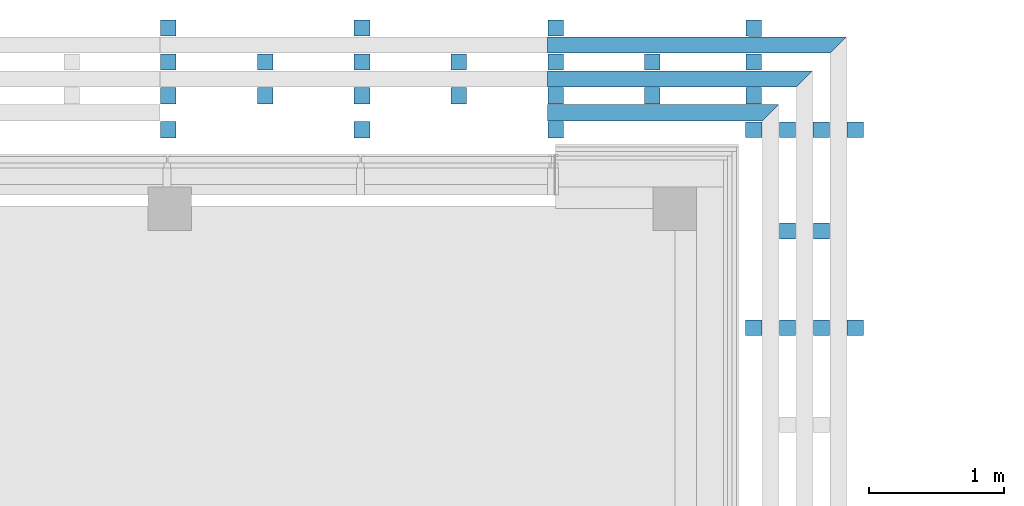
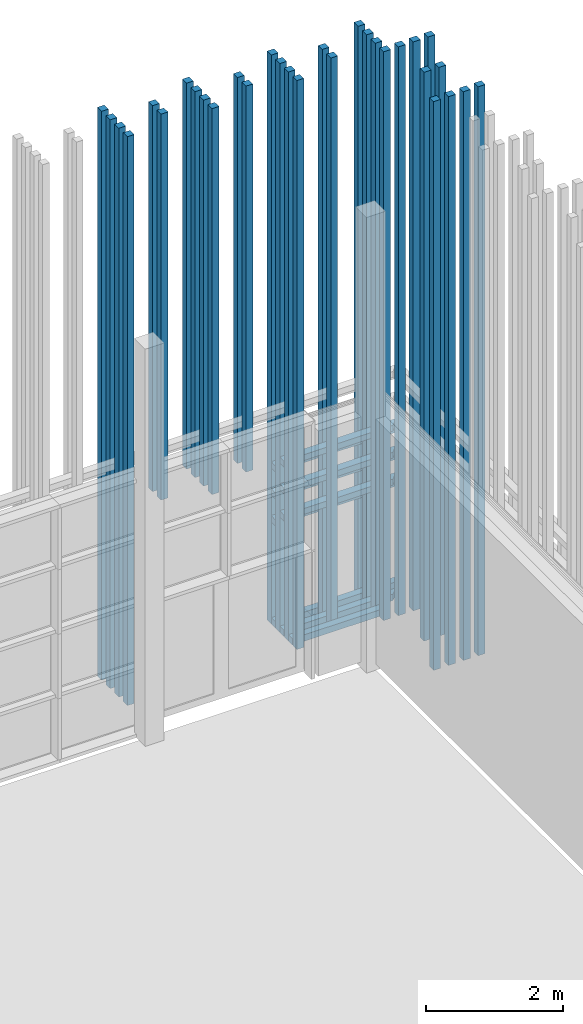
# One storey, part 234 of 260: 14 discrete accessories.
"""IFC2X3 building model written with IfcOpenShell, lengths in millimetres."""

import ifcopenshell
import ifcopenshell.guid

model = None  # the IFC model being written
_history = None  # IfcOwnerHistory: only IFC2X3 demands one
_inside = {}  # id of a spatial element -> (the spatial element, [elements in it])
_under = {}  # id of a project, library or spatial element -> (it, [spatial elements below it])
_declared = {}  # id of a project -> (the project, [libraries it declares])
_typed = {}  # id of a type object -> (the type object, [elements of that type])
_made_of = {}  # id of a material, layer set ... -> (it, [elements and type objects made of it])


def new_model(schema):
    """Start an empty IFC model of exactly this schema.

    Asked for "IFC4X3", IfcOpenShell would pick the latest addendum, in which some entities
    have other attributes; the version numbers below select the first issue.
    IFC2X3 requires an IfcOwnerHistory on every rooted entity: one is made here for all.
    """
    global model, _history
    if schema == "IFC4X3":
        model = ifcopenshell.file(schema_version=(4, 3, 0, 0))
    else:
        model = ifcopenshell.file(schema=schema)
    _inside.clear()
    _under.clear()
    _declared.clear()
    _typed.clear()
    _made_of.clear()
    _history = None
    if model.schema == "IFC2X3":
        org = make("IfcOrganization", Name="unknown")
        user = make(
            "IfcPersonAndOrganization",
            ThePerson=make("IfcPerson", FamilyName="unknown"),
            TheOrganization=org,
        )
        app = make(
            "IfcApplication",
            ApplicationDeveloper=org,
            Version="unknown",
            ApplicationFullName="unknown",
            ApplicationIdentifier="unknown",
        )
        _history = make(
            "IfcOwnerHistory",
            OwningUser=user,
            OwningApplication=app,
            ChangeAction="ADDED",
            CreationDate=0,
        )
    return model


def make(cls, **values):
    """One entity of the class cls with the attributes given. An attribute that is None is left unset."""
    return model.create_entity(
        cls, **{name: value for name, value in values.items() if value is not None}
    )


def entity(cls, *values):
    """Any entity or typed value of the class cls, its attributes in the order of the schema. None: left unset."""
    e = model.create_entity(cls)
    for i, value in enumerate(values):
        if value is not None:
            e[i] = value
    return e


def rooted(cls, **values):
    """An entity with a GlobalId (a new one), such as an element, a storey or a relation."""
    return make(cls, GlobalId=ifcopenshell.guid.new(), OwnerHistory=_history, **values)


def si_unit(unit_type, name, prefix=None):
    """IfcSIUnit, for example si_unit("LENGTHUNIT", "METRE", prefix="MILLI")."""
    return make("IfcSIUnit", UnitType=unit_type, Prefix=prefix, Name=name)


def converted_unit(unit_type, name, factor, base, dimensions=None, offset=None):
    """IfcConversionBasedUnit, such as the inch: factor (a typed value) times the base unit."""
    return make(
        "IfcConversionBasedUnit"
        if offset is None
        else "IfcConversionBasedUnitWithOffset",
        ConversionOffset=offset,
        Dimensions=None
        if dimensions is None
        else entity("IfcDimensionalExponents", *dimensions),
        UnitType=unit_type,
        Name=name,
        ConversionFactor=make(
            "IfcMeasureWithUnit", ValueComponent=factor, UnitComponent=base
        ),
    )


def derived_unit(unit_type, elements):
    """IfcDerivedUnit: a product of units, each with its exponent."""
    return make(
        "IfcDerivedUnit",
        Elements=[
            make("IfcDerivedUnitElement", Unit=unit, Exponent=power)
            for unit, power in elements
        ],
        UnitType=unit_type,
    )


def money_unit(currency):
    """IfcMonetaryUnit."""
    return make("IfcMonetaryUnit", Currency=currency)


def assignment(units):
    """IfcUnitAssignment: the units of a project."""
    return None if units is None else make("IfcUnitAssignment", Units=units)


def point(xyz):
    """IfcCartesianPoint."""
    return None if xyz is None else make("IfcCartesianPoint", Coordinates=xyz)


def direction(xyz):
    """IfcDirection."""
    return None if xyz is None else make("IfcDirection", DirectionRatios=xyz)


def frame(location, z_axis=None, x_axis=None):
    """IfcAxis2Placement3D, a coordinate frame: its origin and axes. An axis left out is left unset."""
    return make(
        "IfcAxis2Placement3D",
        Location=point(location),
        Axis=direction(z_axis),
        RefDirection=direction(x_axis),
    )


def origin_with_axes():
    """The frame at (0, 0, 0) with the z axis (0, 0, 1) and the x axis (1, 0, 0) written out."""
    return frame((0.0, 0.0, 0.0), z_axis=(0.0, 0.0, 1.0), x_axis=(1.0, 0.0, 0.0))


def place(relative_to, where):
    """IfcLocalPlacement: puts the frame where relative to a parent placement (None: the world)."""
    return make(
        "IfcLocalPlacement", PlacementRelTo=relative_to, RelativePlacement=where
    )


def context(
    kind, dimensions, precision=None, world=None, true_north=None, identifier=None
):
    """IfcGeometricRepresentationContext, for example the 3D "Model" context."""
    return make(
        "IfcGeometricRepresentationContext",
        ContextIdentifier=identifier,
        ContextType=kind,
        CoordinateSpaceDimension=dimensions,
        Precision=precision,
        WorldCoordinateSystem=world,
        TrueNorth=true_north,
    )


def subcontext(parent, identifier, kind, view, scale=None):
    """IfcGeometricRepresentationSubContext, for example "Body" below "Model"."""
    return make(
        "IfcGeometricRepresentationSubContext",
        ContextIdentifier=identifier,
        ContextType=kind,
        ParentContext=parent,
        TargetScale=scale,
        TargetView=view,
    )


def project(units=None, contexts=None):
    """IfcProject with its units and contexts."""
    return rooted(
        "IfcProject",
        Name="project",
        RepresentationContexts=contexts,
        UnitsInContext=assignment(units),
    )


def spatial(cls, under=None, at=None, **own):
    """A site, building, storey or space (cls), placed at a placement, below another one or the project."""
    s = rooted(cls, ObjectPlacement=at, **own)
    if under is not None:
        _under.setdefault(under.id(), (under, []))[1].append(s)
    return s


def faces_of(points, faces, orient=None, outer=None):
    """IfcFace entities. A face is a list of loops; a loop is a list of indices into points, from 0.

    orient and outer hold one flag for each loop. By default every Orientation is true, the
    first loop of a face is its IfcFaceOuterBound and the others are IfcFaceBound.
    """
    made = []
    for i, loops in enumerate(faces):
        bounds = []
        for j, loop in enumerate(loops):
            is_outer = j == 0 if outer is None else outer[i][j]
            bounds.append(
                make(
                    "IfcFaceOuterBound" if is_outer else "IfcFaceBound",
                    Bound=make("IfcPolyLoop", Polygon=[points[k] for k in loop]),
                    Orientation=True if orient is None else orient[i][j],
                )
            )
        made.append(make("IfcFace", Bounds=bounds))
    return made


def faceted_brep(points, faces, orient=None, outer=None, voids=None):
    """IfcFacetedBrep: a solid bounded by flat faces; with voids (closed shells), ...WithVoids."""
    shared = [point(p) for p in points]
    hull = make("IfcClosedShell", CfsFaces=faces_of(shared, faces, orient, outer))
    if voids is None:
        return make("IfcFacetedBrep", Outer=hull)
    return make(
        "IfcFacetedBrepWithVoids",
        Outer=hull,
        Voids=[
            make(cls, CfsFaces=faces_of(shared, fs, o, b)) for cls, fs, o, b in voids
        ],
    )


def shape(context_of_items, identifier, shape_type, items):
    """IfcShapeRepresentation: the items that make up one representation, for example the "Body"."""
    return make(
        "IfcShapeRepresentation",
        ContextOfItems=context_of_items,
        RepresentationIdentifier=identifier,
        RepresentationType=shape_type,
        Items=items,
    )


def material(Name=None, Category=None):
    """IfcMaterial."""
    return make("IfcMaterial", Name=Name, Category=Category)


def material_list(materials):
    """IfcMaterialList."""
    return make("IfcMaterialList", Materials=materials)


def made_of(thing, what):
    """Note that an element or type object is made of a material, layer set ...; save() writes the relation."""
    if what is not None:
        _made_of.setdefault(what.id(), (what, []))[1].append(thing)
    return thing


def type_object(cls, material=None, **own):
    """A type object (cls), such as IfcWallType, which elements share."""
    return made_of(rooted(cls, **own), material)


def element(
    cls,
    number,
    at=None,
    inside=None,
    cuts=None,
    type_object=None,
    material=None,
    context=None,
    identifier="Body",
    shape_type=None,
    held_by="IfcProductDefinitionShape",
    body=None,
    shapes=None,
    **own,
):
    """One element of the class cls, such as IfcWall. Its Tag is "e" and its number.

    at: its placement. inside: the storey or other place that contains it. cuts: it is an
    opening in that element (IfcRelVoidsElement). A single representation is given by context,
    identifier, shape_type and body (its items); several are given by shapes. held_by: the class
    of the entity that holds the representations. save() writes the other relations.
    """
    e = rooted(cls, Tag="e%d" % number, ObjectPlacement=at, **own)
    if body is not None:
        shapes = [shape(context, identifier, shape_type, body)]
    if shapes is not None:
        e.Representation = make(held_by, Representations=shapes)
    if inside is not None:
        _inside.setdefault(inside.id(), (inside, []))[1].append(e)
    if cuts is not None:
        rooted(
            "IfcRelVoidsElement", RelatingBuildingElement=cuts, RelatedOpeningElement=e
        )
    if type_object is not None:
        _typed.setdefault(type_object.id(), (type_object, []))[1].append(e)
    return made_of(e, material)


def aggregate(whole, parts):
    """IfcRelAggregates: a whole, such as a stair, and the parts it consists of."""
    return rooted("IfcRelAggregates", RelatingObject=whole, RelatedObjects=parts)


def save(model, path):
    """Write the relations noted so far, then the file.

    IfcRelAggregates (storeys below a building ...), IfcRelContainedInSpatialStructure (elements
    in a storey), IfcRelDefinesByType, IfcRelAssociatesMaterial and IfcRelDeclares: one each for
    every whole, place, type object, material and project.
    """
    for whole, parts in _under.values():
        aggregate(whole, parts)
    for where, things in _inside.values():
        rooted(
            "IfcRelContainedInSpatialStructure",
            RelatedElements=things,
            RelatingStructure=where,
        )
    for kind, things in _typed.values():
        rooted("IfcRelDefinesByType", RelatedObjects=things, RelatingType=kind)
    for what, things in _made_of.values():
        rooted("IfcRelAssociatesMaterial", RelatedObjects=things, RelatingMaterial=what)
    for by, libraries in _declared.values():
        rooted("IfcRelDeclares", RelatingContext=by, RelatedDefinitions=libraries)
    model.write(path)


model = new_model("IFC2X3")

# Units and contexts
model_context = context("Model", 3, precision=0.01, world=origin_with_axes(), true_north=direction((0.0, 1.0)))
body_context = subcontext(model_context, "Body", "Model", "MODEL_VIEW")
ifc_project = project(units=[si_unit("LENGTHUNIT", "METRE", prefix="MILLI"), si_unit("AREAUNIT", "SQUARE_METRE"), si_unit("VOLUMEUNIT", "CUBIC_METRE"), converted_unit("PLANEANGLEUNIT", "DEGREE", entity("IfcPlaneAngleMeasure", 0.0174532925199), si_unit("PLANEANGLEUNIT", "RADIAN"), dimensions=[0, 0, 0, 0, 0, 0, 0]), money_unit("EUR"), converted_unit("TIMEUNIT", "Year", entity("IfcTimeMeasure", 31556926.0), si_unit("TIMEUNIT", "SECOND"), dimensions=[0, 0, 1, 0, 0, 0, 0]), si_unit("MASSUNIT", "GRAM", prefix="KILO"), si_unit("THERMODYNAMICTEMPERATUREUNIT", "DEGREE_CELSIUS"), si_unit("LUMINOUSINTENSITYUNIT", "LUMEN"), si_unit("ENERGYUNIT", "JOULE", prefix="MEGA"), derived_unit("THERMALCONDUCTANCEUNIT", [(si_unit("POWERUNIT", "WATT"), 1), (si_unit("LENGTHUNIT", "METRE"), -1), (si_unit("THERMODYNAMICTEMPERATUREUNIT", "KELVIN"), -1)]), derived_unit("SPECIFICHEATCAPACITYUNIT", [(si_unit("ENERGYUNIT", "JOULE"), 1), (si_unit("MASSUNIT", "GRAM", prefix="KILO"), -1), (si_unit("THERMODYNAMICTEMPERATUREUNIT", "KELVIN"), -1)]), derived_unit("MASSDENSITYUNIT", [(si_unit("MASSUNIT", "GRAM", prefix="KILO"), 1), (si_unit("VOLUMEUNIT", "CUBIC_METRE"), -1)])], contexts=[model_context])

# Site, building, storey
site_placement = place(None, origin_with_axes())
site = spatial("IfcSite", under=ifc_project, at=site_placement, Name="Kolde pst 67a", CompositionType="ELEMENT")
building_placement = place(site_placement, origin_with_axes())
building = spatial("IfcBuilding", under=site, at=building_placement, Name="Riigigümnaasium", CompositionType="ELEMENT")
storey_placement = place(building_placement, origin_with_axes())
storey = spatial("IfcBuildingStorey", under=building, at=storey_placement, Name="1. korrus", CompositionType="ELEMENT", Elevation=0.0)

# Discrete accessories
ifc_material = material(Name="_VÄLISVIIMISTLUS - sõrmjätkatud puitprussid 120x115mm, liitekohad vähemärgatavad, Platowood sõrmjätkatud kuusk või samaväärne; eeltöödeldud tuletõkkevõõbaga, tuletundlikkus B-s1, d0, Woodsafe Exterior WFX™ või samaväärne; kinnitused vastavalt EK osale")
ifc_material_list_1 = material_list([ifc_material, ifc_material, ifc_material, ifc_material])
discrete_accessory_type_1 = type_object("IfcDiscreteAccessoryType", Name="120 4-ne vertikaalne 870 x 115")
for number, where, z_axis, x_axis in (
    (1, (36789.4137479, 84850.4999211, 280.0), (0.0, 0.0, 1.0), (-0.999999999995, -3.13999128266e-06, 0.0)),
    (2, (36790.0027617, 83387.5215746, 280.0), (0.0, 0.0, 1.0), (-0.999999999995, -3.13999128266e-06, 0.0)),
    (3, (35412.4999347, 84790.0013546, 280.0), (0.0, 0.0, 1.0), (-2.93429595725e-05, -0.999999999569, 0.0)),
):
    element("IfcDiscreteAccessory", number, at=place(storey_placement, frame(where, z_axis=z_axis, x_axis=x_axis)), inside=storey, type_object=discrete_accessory_type_1, material=ifc_material_list_1, Name="Päikesevarjestus", context=body_context, shape_type="Brep", body=[
        faceted_brep([(-133.0, -70.0, 0.0), (-13.0, -70.0, 0.0), (-13.0, -70.0, 10140.0), (-133.0, -70.0, 10140.0), (-133.0, 45.0, 0.0), (-13.0, 45.0, 0.0), (-13.0, 45.0, 10140.0), (-133.0, 45.0, 10140.0)], [[[0, 1, 2, 3]], [[0, 4, 5, 1]], [[1, 5, 6, 2]], [[3, 2, 6, 7]], [[4, 0, 3, 7]], [[5, 4, 7, 6]]]),
        faceted_brep([(-383.0, -70.0, 0.0), (-263.0, -70.0, 0.0), (-263.0, -70.0, 10140.0), (-383.0, -70.0, 10140.0), (-383.0, 45.0, 0.0), (-263.0, 45.0, 0.0), (-263.0, 45.0, 10140.0), (-383.0, 45.0, 10140.0)], [[[0, 1, 2, 3]], [[0, 4, 5, 1]], [[1, 5, 6, 2]], [[3, 2, 6, 7]], [[4, 0, 3, 7]], [[5, 4, 7, 6]]]),
        faceted_brep([(-633.0, -70.0, 0.0), (-513.0, -70.0, 0.0), (-513.0, -70.0, 10140.0), (-633.0, -70.0, 10140.0), (-633.0, 45.0, 0.0), (-513.0, 45.0, 0.0), (-513.0, 45.0, 10140.0), (-633.0, 45.0, 10140.0)], [[[0, 1, 2, 3]], [[0, 4, 5, 1]], [[1, 5, 6, 2]], [[3, 2, 6, 7]], [[4, 0, 3, 7]], [[5, 4, 7, 6]]]),
        faceted_brep([(-883.0, -70.0, 0.0), (-763.0, -70.0, 0.0), (-763.0, -70.0, 10140.0), (-883.0, -70.0, 10140.0), (-883.0, 45.0, 0.0), (-763.0, 45.0, 0.0), (-763.0, 45.0, 10140.0), (-883.0, 45.0, 10140.0)], [[[0, 1, 2, 3]], [[0, 4, 5, 1]], [[1, 5, 6, 2]], [[3, 2, 6, 7]], [[4, 0, 3, 7]], [[5, 4, 7, 6]]]),
    ])
discrete_accessory_1_placement = place(storey_placement, frame((33982.4999347, 84790.0013546, 3540.00014213), z_axis=(0.0, 0.0, 1.0), x_axis=(-2.93429595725e-05, -0.999999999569, 0.0)))
element("IfcDiscreteAccessory", 4, at=discrete_accessory_1_placement, inside=storey, type_object=discrete_accessory_type_1, material=ifc_material_list_1, Name="Päikesevarjestus", context=body_context, shape_type="Brep", body=[
    faceted_brep([(-133.0, -70.0, 0.0), (-13.0, -70.0, 0.0), (-13.0, -70.0, 6879.99985787), (-133.0, -70.0, 6879.99985787), (-133.0, 45.0, 0.0), (-13.0, 45.0, 0.0), (-13.0, 45.0, 6879.99985787), (-133.0, 45.0, 6879.99985787)], [[[0, 1, 2, 3]], [[0, 4, 5, 1]], [[1, 5, 6, 2]], [[3, 2, 6, 7]], [[4, 0, 3, 7]], [[5, 4, 7, 6]]]),
    faceted_brep([(-383.0, -70.0, 0.0), (-263.0, -70.0, 0.0), (-263.0, -70.0, 6879.99985787), (-383.0, -70.0, 6879.99985787), (-383.0, 45.0, 0.0), (-263.0, 45.0, 0.0), (-263.0, 45.0, 6879.99985787), (-383.0, 45.0, 6879.99985787)], [[[0, 1, 2, 3]], [[0, 4, 5, 1]], [[1, 5, 6, 2]], [[3, 2, 6, 7]], [[4, 0, 3, 7]], [[5, 4, 7, 6]]]),
    faceted_brep([(-633.0, -70.0, 0.0), (-513.0, -70.0, 0.0), (-513.0, -70.0, 6879.99985787), (-633.0, -70.0, 6879.99985787), (-633.0, 45.0, 0.0), (-513.0, 45.0, 0.0), (-513.0, 45.0, 6879.99985787), (-633.0, 45.0, 6879.99985787)], [[[0, 1, 2, 3]], [[0, 4, 5, 1]], [[1, 5, 6, 2]], [[3, 2, 6, 7]], [[4, 0, 3, 7]], [[5, 4, 7, 6]]]),
    faceted_brep([(-883.0, -70.0, 0.0), (-763.0, -70.0, 0.0), (-763.0, -70.0, 6879.99985787), (-883.0, -70.0, 6879.99985787), (-883.0, 45.0, 0.0), (-763.0, 45.0, 0.0), (-763.0, 45.0, 6879.99985787), (-883.0, 45.0, 6879.99985787)], [[[0, 1, 2, 3]], [[0, 4, 5, 1]], [[1, 5, 6, 2]], [[3, 2, 6, 7]], [[4, 0, 3, 7]], [[5, 4, 7, 6]]]),
])
discrete_accessory_2_placement = place(storey_placement, frame((32552.4999347, 84790.0013546, 280.0), z_axis=(0.0, 0.0, 1.0), x_axis=(-2.93429595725e-05, -0.999999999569, 0.0)))
element("IfcDiscreteAccessory", 5, at=discrete_accessory_2_placement, inside=storey, type_object=discrete_accessory_type_1, material=ifc_material_list_1, Name="Päikesevarjestus", context=body_context, shape_type="Brep", body=[
    faceted_brep([(-133.0, -70.0, 0.0), (-13.0, -70.0, 0.0), (-13.0, -70.0, 10140.0), (-133.0, -70.0, 10140.0), (-133.0, 45.0, 0.0), (-13.0, 45.0, 0.0), (-13.0, 45.0, 10140.0), (-133.0, 45.0, 10140.0)], [[[0, 1, 2, 3]], [[0, 4, 5, 1]], [[1, 5, 6, 2]], [[3, 2, 6, 7]], [[4, 0, 3, 7]], [[5, 4, 7, 6]]]),
    faceted_brep([(-383.0, -70.0, 0.0), (-263.0, -70.0, 0.0), (-263.0, -70.0, 10140.0), (-383.0, -70.0, 10140.0), (-383.0, 45.0, 0.0), (-263.0, 45.0, 0.0), (-263.0, 45.0, 10140.0), (-383.0, 45.0, 10140.0)], [[[0, 1, 2, 3]], [[0, 4, 5, 1]], [[1, 5, 6, 2]], [[3, 2, 6, 7]], [[4, 0, 3, 7]], [[5, 4, 7, 6]]]),
    faceted_brep([(-633.0, -70.0, 0.0), (-513.0, -70.0, 0.0), (-513.0, -70.0, 10140.0), (-633.0, -70.0, 10140.0), (-633.0, 45.0, 0.0), (-513.0, 45.0, 0.0), (-513.0, 45.0, 10140.0), (-633.0, 45.0, 10140.0)], [[[0, 1, 2, 3]], [[0, 4, 5, 1]], [[1, 5, 6, 2]], [[3, 2, 6, 7]], [[4, 0, 3, 7]], [[5, 4, 7, 6]]]),
    faceted_brep([(-883.0, -70.0, 0.0), (-763.0, -70.0, 0.0), (-763.0, -70.0, 10140.0), (-883.0, -70.0, 10140.0), (-883.0, 45.0, 0.0), (-763.0, 45.0, 0.0), (-763.0, 45.0, 10140.0), (-883.0, 45.0, 10140.0)], [[[0, 1, 2, 3]], [[0, 4, 5, 1]], [[1, 5, 6, 2]], [[3, 2, 6, 7]], [[4, 0, 3, 7]], [[5, 4, 7, 6]]]),
])
ifc_material_list_2 = material_list([ifc_material, ifc_material, ifc_material])
discrete_accessory_type_2 = type_object("IfcDiscreteAccessoryType", Name="120 4-ne vertikaalne -1 nurgaribi 620 x 115")
discrete_accessory_3_placement = place(storey_placement, frame((36876.9096176, 84789.9978346, 280.0), z_axis=(0.0, 0.0, 1.0), x_axis=(-2.93429595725e-05, -0.999999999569, 0.0)))
element("IfcDiscreteAccessory", 6, at=discrete_accessory_3_placement, inside=storey, type_object=discrete_accessory_type_2, material=ifc_material_list_2, Name="Päikesevarjestus", context=body_context, shape_type="Brep", body=[
    faceted_brep([(-383.0, -70.0, 0.0), (-263.0, -70.0, 0.0), (-263.0, -70.0, 10140.0), (-383.0, -70.0, 10140.0), (-383.0, 45.0, 0.0), (-263.0, 45.0, 0.0), (-263.0, 45.0, 10140.0), (-383.0, 45.0, 10140.0)], [[[0, 1, 2, 3]], [[0, 4, 5, 1]], [[1, 5, 6, 2]], [[3, 2, 6, 7]], [[4, 0, 3, 7]], [[5, 4, 7, 6]]]),
    faceted_brep([(-633.0, -70.0, 0.0), (-513.0, -70.0, 0.0), (-513.0, -70.0, 10140.0), (-633.0, -70.0, 10140.0), (-633.0, 45.0, 0.0), (-513.0, 45.0, 0.0), (-513.0, 45.0, 10140.0), (-633.0, 45.0, 10140.0)], [[[0, 1, 2, 3]], [[0, 4, 5, 1]], [[1, 5, 6, 2]], [[3, 2, 6, 7]], [[4, 0, 3, 7]], [[5, 4, 7, 6]]]),
    faceted_brep([(-883.0, -70.0, 0.0), (-763.0, -70.0, 0.0), (-763.0, -70.0, 10140.0), (-883.0, -70.0, 10140.0), (-883.0, 45.0, 0.0), (-763.0, 45.0, 0.0), (-763.0, 45.0, 10140.0), (-883.0, 45.0, 10140.0)], [[[0, 1, 2, 3]], [[0, 4, 5, 1]], [[1, 5, 6, 2]], [[3, 2, 6, 7]], [[4, 0, 3, 7]], [[5, 4, 7, 6]]]),
])
discrete_accessory_type_3 = type_object("IfcDiscreteAccessoryType", Name="120 1+paiksekaitse 3 tk  620 x 115")
discrete_accessory_4_placement = place(storey_placement, frame((36802.4172837, 84802.999962, 352.5), z_axis=(0.0, 0.0, 1.0), x_axis=(0.0, 1.0, 0.0)))
element("IfcDiscreteAccessory", 7, at=discrete_accessory_4_placement, inside=storey, type_object=discrete_accessory_type_3, material=ifc_material_list_2, Name="Päikesevarjestus", context=body_context, shape_type="Brep", body=[
    faceted_brep([(625.0, 1462.39231937, 45.0), (625.0, -624.980398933, 45.0), (745.0, -744.976635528, 45.0), (745.0, 1462.39231937, 45.0), (625.0, 1462.39231937, -70.0), (625.0, -624.980398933, -70.0), (745.0, -744.976635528, -70.0), (745.0, 1462.39231937, -70.0)], [[[0, 1, 2, 3]], [[4, 5, 1, 0]], [[5, 6, 2, 1]], [[3, 2, 6, 7]], [[4, 0, 3, 7]], [[7, 6, 5, 4]]]),
    faceted_brep([(375.0, 1462.39231937, 45.0), (375.0, -374.98823936, 45.0), (495.0, -494.984475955, 45.0), (495.0, 1462.39231937, 45.0), (375.0, 1462.39231937, -70.0), (375.0, -374.98823936, -70.0), (495.0, -494.984475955, -70.0), (495.0, 1462.39231937, -70.0)], [[[0, 1, 2, 3]], [[4, 5, 1, 0]], [[5, 6, 2, 1]], [[3, 2, 6, 7]], [[4, 0, 3, 7]], [[7, 6, 5, 4]]]),
    faceted_brep([(125.0, 1462.39231937, 45.0), (125.0, -124.996079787, 45.0), (245.0, -244.992316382, 45.0), (245.0, 1462.39231937, 45.0), (125.0, 1462.39231937, -70.0), (125.0, -124.996079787, -70.0), (245.0, -244.992316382, -70.0), (245.0, 1462.39231937, -70.0)], [[[0, 1, 2, 3]], [[4, 5, 1, 0]], [[5, 6, 2, 1]], [[3, 2, 6, 7]], [[4, 0, 3, 7]], [[7, 6, 5, 4]]]),
])
ifc_material_list_3 = material_list([ifc_material, ifc_material])
discrete_accessory_type_4 = type_object("IfcDiscreteAccessoryType", Name="1+paiksekaitse 4 tk nihkes 2 370 x 355")
for number, where, z_axis, x_axis in (
    (8, (36802.4157539, 84802.9999557, 2100.00014213), (0.0, 0.0, 1.0), (1.89286977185e-07, 1.0, 0.0)),
    (9, (36802.4157539, 84802.9999557, 2580.00014213), (0.0, 0.0, 1.0), (1.89286967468e-07, 1.0, 0.0)),
    (10, (36802.4157539, 84802.9999557, 3060.00014213), (0.0, 0.0, 1.0), (1.89286967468e-07, 1.0, 0.0)),
):
    element("IfcDiscreteAccessory", number, at=place(storey_placement, frame(where, z_axis=z_axis, x_axis=x_axis)), inside=storey, type_object=discrete_accessory_type_4, material=ifc_material_list_3, Name="Päikesevarjestus", context=body_context, shape_type="Brep", body=[
        faceted_brep([(375.0, 1462.39094856, 347.001360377), (375.0, -374.990379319, 347.001360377), (495.0, -494.987300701, 357.5), (495.0, 1462.39094856, 357.5), (375.0, 1462.39094856, 242.5), (375.0, -374.990379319, 242.5), (495.0, -494.987300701, 242.5), (495.0, 1462.39094856, 242.5)], [[[0, 1, 2, 3]], [[4, 5, 1, 0]], [[5, 6, 2, 1]], [[3, 2, 6, 7]], [[4, 0, 3, 7]], [[7, 6, 5, 4]]]),
        faceted_brep([(625.0, 1462.39094856, 107.001360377), (625.0, -624.983965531, 107.001360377), (745.0, -744.980886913, 117.5), (745.0, 1462.39094856, 117.5), (625.0, 1462.39094856, 2.5), (625.0, -624.983965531, 2.5), (745.0, -744.980886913, 2.5), (745.0, 1462.39094856, 2.5)], [[[0, 1, 2, 3]], [[4, 5, 1, 0]], [[5, 6, 2, 1]], [[3, 2, 6, 7]], [[4, 0, 3, 7]], [[7, 6, 5, 4]]]),
    ])
discrete_accessory_type_5 = type_object("IfcDiscreteAccessoryType", Name="1+paiksekaitse 3 370 x 115")
discrete_accessory_5_placement = place(storey_placement, frame((37770.0025341, 84175.0235214, 280.0), z_axis=(0.0, 0.0, 1.0), x_axis=(-1.0, 0.0, 0.0)))
element("IfcDiscreteAccessory", 11, at=discrete_accessory_5_placement, inside=storey, type_object=discrete_accessory_type_5, material=ifc_material_list_3, Name="Päikesevarjestus", context=body_context, shape_type="Brep", body=[
    faceted_brep([(467.0, 117.5, 0.0), (347.0, 117.5, 0.0), (347.0, 117.5, 10140.0), (467.0, 117.5, 10140.0), (467.0, 2.5, 0.0), (347.0, 2.5, 0.0), (347.0, 2.5, 10140.0), (467.0, 2.5, 10140.0)], [[[0, 1, 2, 3]], [[0, 4, 5, 1]], [[1, 5, 6, 2]], [[3, 2, 6, 7]], [[4, 0, 3, 7]], [[5, 4, 7, 6]]]),
    faceted_brep([(717.0, 117.5, 0.0), (597.0, 117.5, 0.0), (597.0, 117.5, 10140.0), (717.0, 117.5, 10140.0), (717.0, 2.5, 0.0), (597.0, 2.5, 0.0), (597.0, 2.5, 10140.0), (717.0, 2.5, 10140.0)], [[[0, 1, 2, 3]], [[0, 4, 5, 1]], [[1, 5, 6, 2]], [[3, 2, 6, 7]], [[4, 0, 3, 7]], [[5, 4, 7, 6]]]),
])
discrete_accessory_6_placement = place(storey_placement, frame((34625.0181274, 85770.0034817, 3540.00014213), z_axis=(0.0, 0.0, 1.0), x_axis=(0.0, -1.0, 0.0)))
element("IfcDiscreteAccessory", 12, at=discrete_accessory_6_placement, inside=storey, type_object=discrete_accessory_type_5, material=ifc_material_list_3, Name="Päikesevarjestus", context=body_context, shape_type="Brep", body=[
    faceted_brep([(467.0, 117.5, 0.0), (347.0, 117.5, 0.0), (347.0, 117.5, 6879.99985787), (467.0, 117.5, 6879.99985787), (467.0, 2.5, 0.0), (347.0, 2.5, 0.0), (347.0, 2.5, 6879.99985787), (467.0, 2.5, 6879.99985787)], [[[0, 1, 2, 3]], [[0, 4, 5, 1]], [[1, 5, 6, 2]], [[3, 2, 6, 7]], [[4, 0, 3, 7]], [[5, 4, 7, 6]]]),
    faceted_brep([(717.0, 117.5, 0.0), (597.0, 117.5, 0.0), (597.0, 117.5, 6879.99985787), (717.0, 117.5, 6879.99985787), (717.0, 2.5, 0.0), (597.0, 2.5, 0.0), (597.0, 2.5, 6879.99985787), (717.0, 2.5, 6879.99985787)], [[[0, 1, 2, 3]], [[0, 4, 5, 1]], [[1, 5, 6, 2]], [[3, 2, 6, 7]], [[4, 0, 3, 7]], [[5, 4, 7, 6]]]),
])
discrete_accessory_7_placement = place(storey_placement, frame((36055.0258383, 85770.0034817, 280.0), z_axis=(0.0, 0.0, 1.0), x_axis=(0.0, -1.0, 0.0)))
element("IfcDiscreteAccessory", 13, at=discrete_accessory_7_placement, inside=storey, type_object=discrete_accessory_type_5, material=ifc_material_list_3, Name="Päikesevarjestus", context=body_context, shape_type="Brep", body=[
    faceted_brep([(467.0, 117.5, 0.0), (347.0, 117.5, 0.0), (347.0, 117.5, 10140.0), (467.0, 117.5, 10140.0), (467.0, 2.5, 0.0), (347.0, 2.5, 0.0), (347.0, 2.5, 10140.0), (467.0, 2.5, 10140.0)], [[[0, 1, 2, 3]], [[0, 4, 5, 1]], [[1, 5, 6, 2]], [[3, 2, 6, 7]], [[4, 0, 3, 7]], [[5, 4, 7, 6]]]),
    faceted_brep([(717.0, 117.5, 0.0), (597.0, 117.5, 0.0), (597.0, 117.5, 10140.0), (717.0, 117.5, 10140.0), (717.0, 2.5, 0.0), (597.0, 2.5, 0.0), (597.0, 2.5, 10140.0), (717.0, 2.5, 10140.0)], [[[0, 1, 2, 3]], [[0, 4, 5, 1]], [[1, 5, 6, 2]], [[3, 2, 6, 7]], [[4, 0, 3, 7]], [[5, 4, 7, 6]]]),
])
discrete_accessory_8_placement = place(storey_placement, frame((33195.0181274, 85770.0034817, 3540.00014213), z_axis=(0.0, 0.0, 1.0), x_axis=(0.0, -1.0, 0.0)))
element("IfcDiscreteAccessory", 14, at=discrete_accessory_8_placement, inside=storey, type_object=discrete_accessory_type_5, material=ifc_material_list_3, Name="Päikesevarjestus", context=body_context, shape_type="Brep", body=[
    faceted_brep([(467.0, 117.5, 0.0), (347.0, 117.5, 0.0), (347.0, 117.5, 6879.99985787), (467.0, 117.5, 6879.99985787), (467.0, 2.5, 0.0), (347.0, 2.5, 0.0), (347.0, 2.5, 6879.99985787), (467.0, 2.5, 6879.99985787)], [[[0, 1, 2, 3]], [[0, 4, 5, 1]], [[1, 5, 6, 2]], [[3, 2, 6, 7]], [[4, 0, 3, 7]], [[5, 4, 7, 6]]]),
    faceted_brep([(717.0, 117.5, 0.0), (597.0, 117.5, 0.0), (597.0, 117.5, 6879.99985787), (717.0, 117.5, 6879.99985787), (717.0, 2.5, 0.0), (597.0, 2.5, 0.0), (597.0, 2.5, 6879.99985787), (717.0, 2.5, 6879.99985787)], [[[0, 1, 2, 3]], [[0, 4, 5, 1]], [[1, 5, 6, 2]], [[3, 2, 6, 7]], [[4, 0, 3, 7]], [[5, 4, 7, 6]]]),
])

save(model, "model.ifc")
